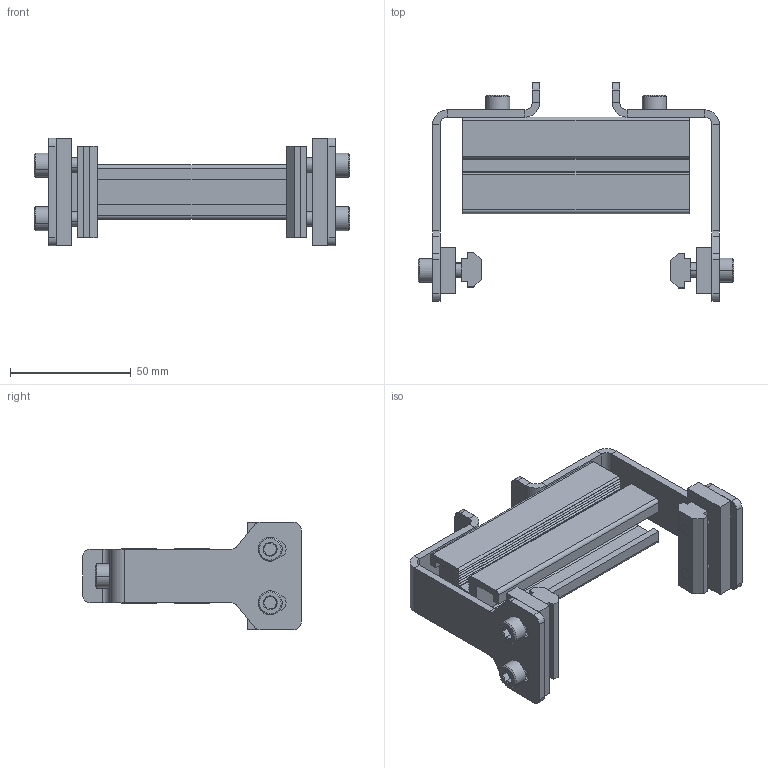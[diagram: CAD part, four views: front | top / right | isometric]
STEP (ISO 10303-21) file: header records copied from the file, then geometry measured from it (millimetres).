
FILE_DESCRIPTION (( 'STEP AP203' ), '1' );
FILE_NAME ('207137-04.STEP', '2021-11-02T16:11:47', ( '' ), ( '' ), 'SwSTEP 2.0', 'SolidWorks 2019', '' );
FILE_SCHEMA (( 'CONFIG_CONTROL_DESIGN' ));
Length unit declared in the file: inch
Products named in the file (8): 207134; 207135-WW_207135-04; 200626M; 207137-04; 202444; 9206XXM_920614M; 9206XXM_920620M; 639971M_CAE
Assembly tree (15 placements, depth 2):
  207137-04
    207134  x2
    207135-WW_207135-04
    202444  x2
    200626M  x2
    639971M_CAE  x2
    9206XXM_920614M  x2
    9206XXM_920620M  x4
Bounding box: 130.77 x 90.68 x 44.45 mm (x, y, z)
Volume: 83035.7 mm3; surface area: 54538.7 mm2
Topology: 15 solids, 15 shells, 432 faces, 1042 edges, 652 vertices
Faces by surface type: plane 258, cylinder 108, cone 66
Entity records: 8328 total; most frequent: CARTESIAN_POINT 1374, DIRECTION 1230, ORIENTED_EDGE 1212, EDGE_CURVE 606, VECTOR 462, LINE 462, VERTEX_POINT 388, AXIS2_PLACEMENT_3D 384
